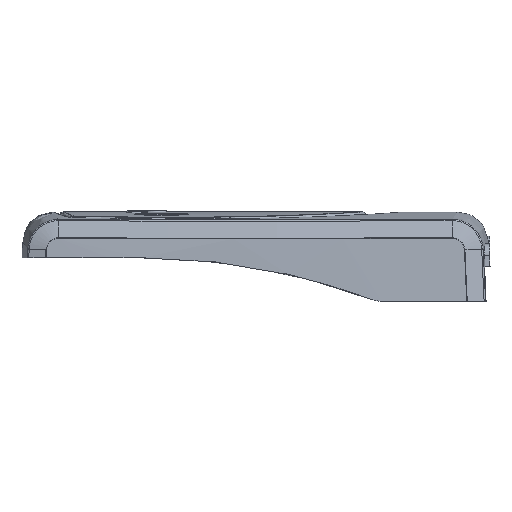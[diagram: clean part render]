
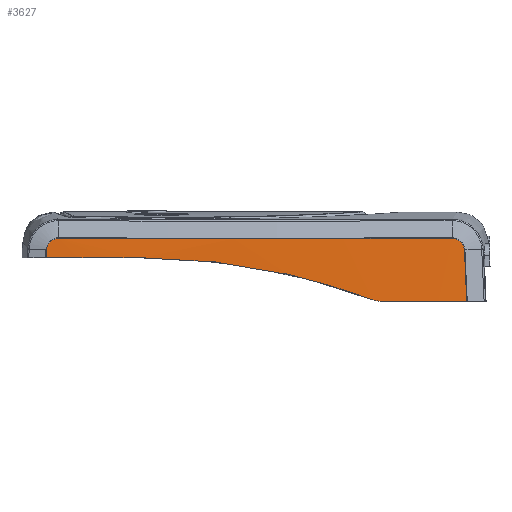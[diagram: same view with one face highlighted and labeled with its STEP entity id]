
A CAD part, left-side view. The second image highlights one B-rep face of the part: STEP entity #3627.
In plain terms, the highlighted conical face has half-angle 3 degrees and reference radius 2115.7 mm.
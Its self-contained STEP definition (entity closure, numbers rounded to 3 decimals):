
#188=CARTESIAN_POINT('',(-42.373,58.517,137.75));
#189=CARTESIAN_POINT('',(-42.318,58.467,138.843));
#190=CARTESIAN_POINT('',(-42.262,58.417,139.937));
#191=CARTESIAN_POINT('',(-42.207,58.367,141.03));
#193=CARTESIAN_POINT('',(-42.207,58.367,141.03));
#194=CARTESIAN_POINT('',(-42.15,58.223,142.23));
#195=CARTESIAN_POINT('',(-42.072,57.12,144.548));
#196=CARTESIAN_POINT('',(-42.11,54.749,145.542));
#197=CARTESIAN_POINT('',(-42.152,53.542,145.608));
#199=CARTESIAN_POINT('',(-42.152,53.542,145.608));
#200=CARTESIAN_POINT('',(-44.116,1.184,145.269));
#201=CARTESIAN_POINT('',(-44.116,-51.25,145.269));
#202=CARTESIAN_POINT('',(-42.153,-103.607,145.608));
#204=CARTESIAN_POINT('',(-42.153,-103.607,145.608));
#205=CARTESIAN_POINT('',(-42.111,-104.816,145.55));
#206=CARTESIAN_POINT('',(-42.071,-107.204,144.559));
#207=CARTESIAN_POINT('',(-42.149,-108.313,142.232));
#208=CARTESIAN_POINT('',(-42.207,-108.456,141.031));
#210=CARTESIAN_POINT('',(-42.207,-108.456,141.031));
#211=CARTESIAN_POINT('',(-42.323,-108.561,138.733));
#212=CARTESIAN_POINT('',(-42.556,-108.771,134.137));
#213=CARTESIAN_POINT('',(-42.905,-109.086,127.244));
#214=CARTESIAN_POINT('',(-43.138,-109.296,122.648));
#215=CARTESIAN_POINT('',(-43.254,-109.4,120.35));
#222=CARTESIAN_POINT('',(2071.43,-25.045,120.35));
#223=DIRECTION('',(0.,0.,1.));
#224=DIRECTION('',(-1.,-0.024,0.));
#225=AXIS2_PLACEMENT_3D('',#222,#223,#224);
#608=CARTESIAN_POINT('',(2071.43,-25.045,137.75));
#609=DIRECTION('',(0.,0.,1.));
#610=DIRECTION('',(-0.999,0.04,0.));
#611=AXIS2_PLACEMENT_3D('',#608,#609,#610);
#646=CARTESIAN_POINT('',(-43.535,20.455,137.75));
#647=CARTESIAN_POINT('',(-43.67,14.166,137.75));
#648=CARTESIAN_POINT('',(-43.897,1.588,137.298));
#649=CARTESIAN_POINT('',(-44.16,-17.182,135.267));
#650=CARTESIAN_POINT('',(-44.329,-35.757,131.895));
#651=CARTESIAN_POINT('',(-44.407,-54.042,127.197));
#652=CARTESIAN_POINT('',(-44.396,-65.976,123.199));
#653=CARTESIAN_POINT('',(-44.382,-71.863,120.988));
#1484=CARTESIAN_POINT('',(-44.382,-71.863,
120.988));
#1485=CARTESIAN_POINT('',(-44.381,-72.236,
120.848));
#1486=CARTESIAN_POINT('',(-44.38,-73.,
120.612));
#1487=CARTESIAN_POINT('',(-44.363,-74.181,
120.398));
#1488=CARTESIAN_POINT('',(-44.347,-74.979,
120.35));
#1489=CARTESIAN_POINT('',(-44.337,-75.378,
120.35));
#2696=VERTEX_POINT('',#193);
#2697=VERTEX_POINT('',#197);
#2699=VERTEX_POINT('',#202);
#2700=VERTEX_POINT('',#208);
#2702=VERTEX_POINT('',#1484);
#2703=VERTEX_POINT('',#1489);
#2704=VERTEX_POINT('',#646);
#2713=CARTESIAN_POINT('',(-43.254,-109.4,
120.35));
#2714=VERTEX_POINT('',#2713);
#2861=CARTESIAN_POINT('',(-42.373,58.517,137.75));
#2862=VERTEX_POINT('',#2861);
#3605=CARTESIAN_POINT('',(2071.43,-25.045,132.979));
#3606=DIRECTION('',(0.,0.,-1.));
#3607=DIRECTION('',(0.999,-0.041,0.));
#3608=AXIS2_PLACEMENT_3D('',#3605,#3606,#3607);
#3609=CONICAL_SURFACE('',#3608,2115.704,3.);
#3611=ORIENTED_EDGE('',*,*,#3610,.F.);
#3613=ORIENTED_EDGE('',*,*,#3612,.F.);
#3615=ORIENTED_EDGE('',*,*,#3614,.F.);
#3617=ORIENTED_EDGE('',*,*,#3616,.F.);
#3619=ORIENTED_EDGE('',*,*,#3618,.T.);
#3620=ORIENTED_EDGE('',*,*,#3290,.T.);
#3621=ORIENTED_EDGE('',*,*,#3382,.T.);
#3622=ORIENTED_EDGE('',*,*,#3596,.T.);
#3624=ORIENTED_EDGE('',*,*,#3623,.T.);
#3625=EDGE_LOOP('',(#3611,#3613,#3615,#3617,#3619,#3620,#3621,#3622,#3624));
#3626=FACE_OUTER_BOUND('',#3625,.F.);
#3627=ADVANCED_FACE('',(#3626),#3609,.T.);
#192=B_SPLINE_CURVE_WITH_KNOTS('',3,(#188,#189,#190,#191),.UNSPECIFIED.,.F.,.F.,
(4,4),(0.,1.),.UNSPECIFIED.);
#198=B_SPLINE_CURVE_WITH_KNOTS('',3,(#193,#194,#195,#196,#197),.UNSPECIFIED.,
.F.,.F.,(4,1,4),(0.,0.5,1.),.UNSPECIFIED.);
#203=B_SPLINE_CURVE_WITH_KNOTS('',3,(#199,#200,#201,#202),.UNSPECIFIED.,.F.,.F.,
(4,4),(0.,1.),.UNSPECIFIED.);
#209=B_SPLINE_CURVE_WITH_KNOTS('',3,(#204,#205,#206,#207,#208),.UNSPECIFIED.,
.F.,.F.,(4,1,4),(0.,0.5,1.),.UNSPECIFIED.);
#216=B_SPLINE_CURVE_WITH_KNOTS('',3,(#210,#211,#212,#213,#214,#215),
.UNSPECIFIED.,.F.,.F.,(4,1,1,4),(0.,0.333,0.667,1.),
.UNSPECIFIED.);
#226=CIRCLE('',#225,2116.366);
#612=CIRCLE('',#611,2115.454);
#654=B_SPLINE_CURVE_WITH_KNOTS('',3,(#646,#647,#648,#649,#650,#651,#652,#653),
.UNSPECIFIED.,.F.,.F.,(4,1,1,1,1,4),(0.,0.2,0.4,0.6,0.8,1.),
.UNSPECIFIED.);
#1490=B_SPLINE_CURVE_WITH_KNOTS('',3,(#1484,#1485,#1486,#1487,#1488,#1489),
.UNSPECIFIED.,.F.,.F.,(4,1,1,4),(0.,0.333,0.667,1.),
.UNSPECIFIED.);
#3290=EDGE_CURVE('',#2696,#2697,#198,.T.);
#3382=EDGE_CURVE('',#2697,#2699,#203,.T.);
#3596=EDGE_CURVE('',#2699,#2700,#209,.T.);
#3610=EDGE_CURVE('',#2703,#2714,#226,.T.);
#3612=EDGE_CURVE('',#2702,#2703,#1490,.T.);
#3614=EDGE_CURVE('',#2704,#2702,#654,.T.);
#3616=EDGE_CURVE('',#2862,#2704,#612,.T.);
#3618=EDGE_CURVE('',#2862,#2696,#192,.T.);
#3623=EDGE_CURVE('',#2700,#2714,#216,.T.);
